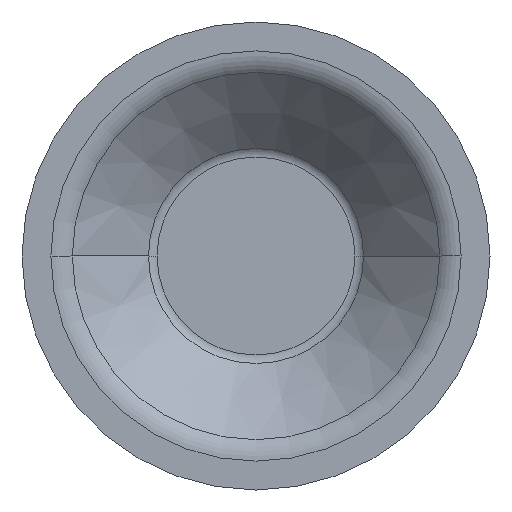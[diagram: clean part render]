
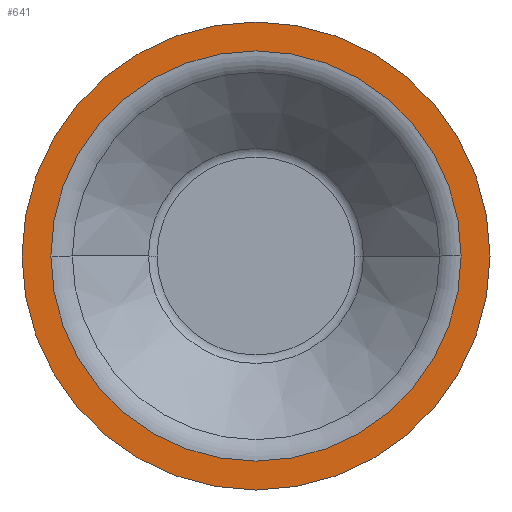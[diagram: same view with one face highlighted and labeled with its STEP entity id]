
A CAD part, front view. The second image highlights one B-rep face of the part: STEP entity #641.
In plain terms, the highlighted planar face has unit normal (0, -1, 0).
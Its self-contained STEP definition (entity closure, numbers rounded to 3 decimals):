
#77 = VERTEX_POINT ( 'NONE', #232 ) ;
#84 = CARTESIAN_POINT ( 'NONE',  ( 0., -17., 0. ) ) ;
#107 = VERTEX_POINT ( 'NONE', #1321 ) ;
#130 = ORIENTED_EDGE ( 'NONE', *, *, #1096, .T. ) ;
#131 = EDGE_CURVE ( 'NONE', #77, #231, #924, .T. ) ;
#161 = DIRECTION ( 'NONE',  ( -1., 0., 0. ) ) ;
#185 = AXIS2_PLACEMENT_3D ( 'NONE', #84, #1106, #1342 ) ;
#187 = CARTESIAN_POINT ( 'NONE',  ( 0., -17., 0. ) ) ;
#206 = ORIENTED_EDGE ( 'NONE', *, *, #131, .T. ) ;
#231 = VERTEX_POINT ( 'NONE', #677 ) ;
#232 = CARTESIAN_POINT ( 'NONE',  ( -38., -17., 0. ) ) ;
#470 = DIRECTION ( 'NONE',  ( 1., 0., 0. ) ) ;
#473 = AXIS2_PLACEMENT_3D ( 'NONE', #1636, #1626, #848 ) ;
#538 = AXIS2_PLACEMENT_3D ( 'NONE', #187, #1303, #161 ) ;
#576 = ORIENTED_EDGE ( 'NONE', *, *, #1091, .F. ) ;
#593 = EDGE_LOOP ( 'NONE', ( #130, #206 ) ) ;
#641 = ADVANCED_FACE ( 'NONE', ( #1006, #885 ), #1620, .T. ) ;
#677 = CARTESIAN_POINT ( 'NONE',  ( 38., -17., 0. ) ) ;
#742 = AXIS2_PLACEMENT_3D ( 'NONE', #1109, #852, #470 ) ;
#848 = DIRECTION ( 'NONE',  ( -1., 0., 0. ) ) ;
#852 = DIRECTION ( 'NONE',  ( 0., -1., 0. ) ) ;
#861 = VERTEX_POINT ( 'NONE', #1527 ) ;
#885 = FACE_OUTER_BOUND ( 'NONE', #593, .T. ) ;
#905 = EDGE_CURVE ( 'NONE', #107, #861, #1253, .T. ) ;
#924 = CIRCLE ( 'NONE', #742, 38. ) ;
#944 = CIRCLE ( 'NONE', #473, 33.312 ) ;
#970 = ORIENTED_EDGE ( 'NONE', *, *, #905, .F. ) ;
#1006 = FACE_BOUND ( 'NONE', #1460, .T. ) ;
#1091 = EDGE_CURVE ( 'NONE', #861, #107, #944, .T. ) ;
#1096 = EDGE_CURVE ( 'NONE', #231, #77, #1403, .T. ) ;
#1106 = DIRECTION ( 'NONE',  ( 0., -1., 0. ) ) ;
#1109 = CARTESIAN_POINT ( 'NONE',  ( 0., -17., 0. ) ) ;
#1123 = DIRECTION ( 'NONE',  ( 0., -1., 0. ) ) ;
#1130 = DIRECTION ( 'NONE',  ( 1., 0., 0. ) ) ;
#1253 = CIRCLE ( 'NONE', #538, 33.312 ) ;
#1294 = AXIS2_PLACEMENT_3D ( 'NONE', #1495, #1123, #1130 ) ;
#1303 = DIRECTION ( 'NONE',  ( 0., -1., 0. ) ) ;
#1321 = CARTESIAN_POINT ( 'NONE',  ( -33.312, -17., 0. ) ) ;
#1342 = DIRECTION ( 'NONE',  ( 1., 0., 0. ) ) ;
#1403 = CIRCLE ( 'NONE', #185, 38. ) ;
#1460 = EDGE_LOOP ( 'NONE', ( #970, #576 ) ) ;
#1495 = CARTESIAN_POINT ( 'NONE',  ( 38., -17., 0. ) ) ;
#1527 = CARTESIAN_POINT ( 'NONE',  ( 33.312, -17., 0. ) ) ;
#1620 = PLANE ( 'NONE',  #1294 ) ;
#1626 = DIRECTION ( 'NONE',  ( 0., -1., 0. ) ) ;
#1636 = CARTESIAN_POINT ( 'NONE',  ( 0., -17., 0. ) ) ;
